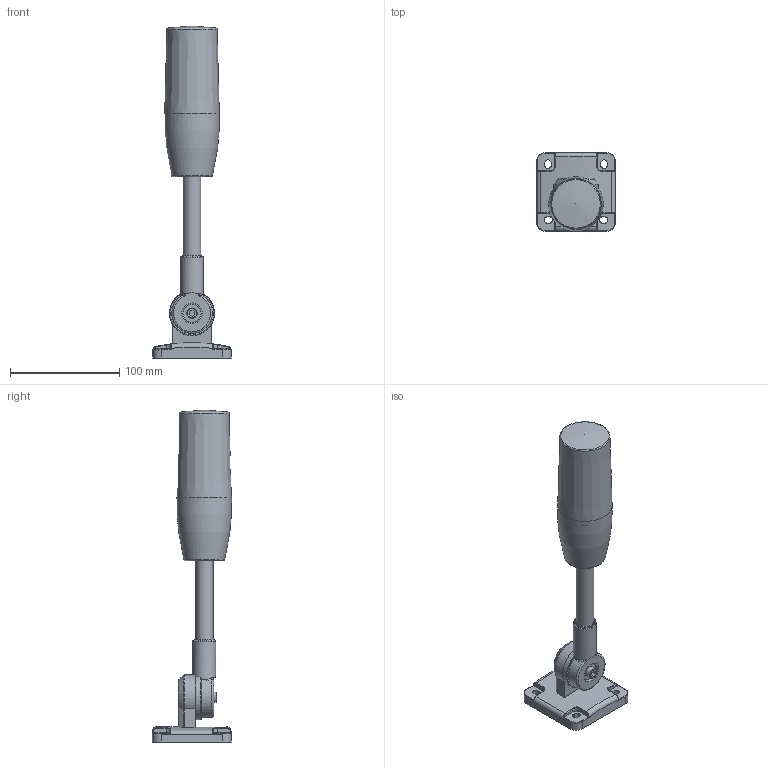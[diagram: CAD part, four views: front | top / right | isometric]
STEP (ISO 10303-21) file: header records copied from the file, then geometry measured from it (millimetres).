
FILE_DESCRIPTION(('STEP AP214'), '1');
FILE_NAME('Êîëîííà', '', ('UNSPECIFIED'), ('UNSPECIFIED'), 'C3D Converter', 'C3D Toolkit', '');
FILE_SCHEMA(('AUTOMOTIVE_DESIGN { 1 0 10303 214 3 1 1}'));
Length unit declared in the file: millimetre
Assembly tree (8 placements, depth 2):
  (unnamed)
    (unnamed)
    (unnamed)
    (unnamed)
    (unnamed)
    (unnamed)
    (unnamed)
    (unnamed)
    (unnamed)
Bounding box: 72 x 72.5 x 304 mm (x, y, z)
Volume: 118860.8 mm3; surface area: 86796.3 mm2
Topology: 8 solids, 8 shells, 255 faces, 634 edges, 407 vertices
Faces by surface type: plane 113, cylinder 96, torus 23, bspline 16, cone 5, sphere 2
Full cylindrical faces by diameter (mm): 5.05 x1, 6 x2, 6.5 x1, 8 x1, 9.5 x1, 16 x3, 16.5 x1, 18 x1, 19 x1, 21 x1, 45.999 x1, 47.999 x1
Entity records: 12319 total; most frequent: CARTESIAN_POINT 5599, ORIENTED_EDGE 1208, DIRECTION 1205, EDGE_CURVE 604, AXIS2_PLACEMENT_3D 451, VERTEX_POINT 405, EDGE_LOOP 323, LINE 303
